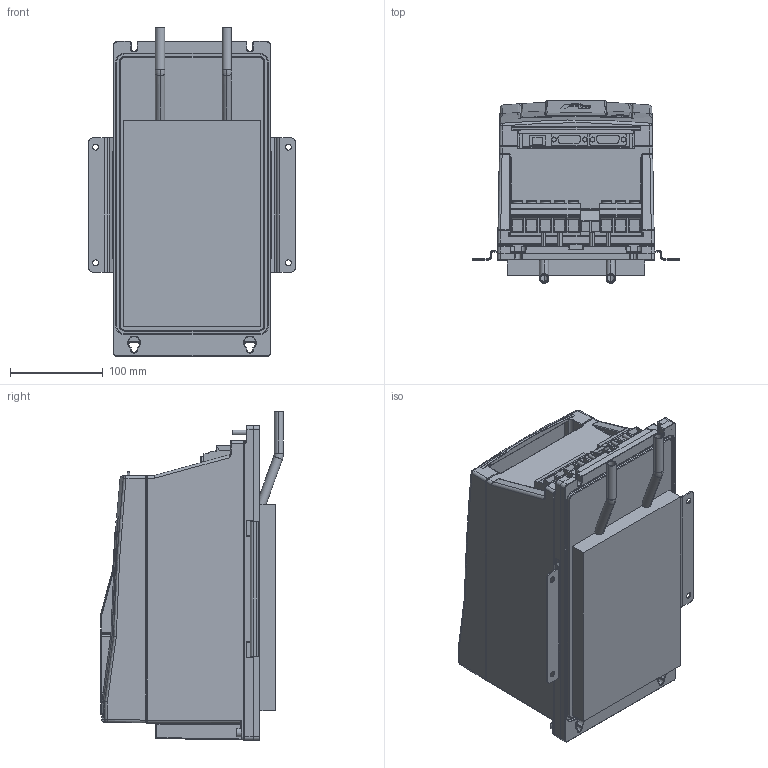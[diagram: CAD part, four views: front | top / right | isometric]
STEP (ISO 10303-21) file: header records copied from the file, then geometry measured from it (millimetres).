
FILE_DESCRIPTION (( 'STEP AP214' ), '1' );
FILE_NAME ('F6-3 TW5-K000.STEP', '2022-05-25T09:54:11', ( '' ), ( '' ), 'SwSTEP 2.0', 'SolidWorks 2019', '' );
FILE_SCHEMA (( 'AUTOMOTIVE_DESIGN' ));
Length unit declared in the file: millimetre
Products named in the file (9): 10035735_000_Kundenmodell; 10068340_000_Leistungsteil TW5 (Kundenmodell); Kundenmodell^10059764_000; F6-3 TW5-K000; Kundenmodell^10068340_000; Kundenmodell^10040482_000; Kundenmodell^10035735_000; 10059764_000_Blindabdeckung (Kundenmodell); 10040482_000_Kundenmodell
Assembly tree (8 placements, depth 4):
  F6-3 TW5-K000
    10068340_000_Leistungsteil TW5 (Kundenmodell)
      Kundenmodell^10068340_000
    10040482_000_Kundenmodell
      Kundenmodell^10040482_000
    10035735_000_Kundenmodell
      10059764_000_Blindabdeckung (Kundenmodell)
        Kundenmodell^10059764_000
      Kundenmodell^10035735_000
Bounding box: 223 x 197.46 x 355 mm (x, y, z)
Volume: 7989780.4 mm3; surface area: 587507.1 mm2
Topology: 11 solids, 22 shells, 2261 faces, 5746 edges, 3550 vertices
Faces by surface type: plane 947, cylinder 719, bspline 331, cone 111, torus 103, sphere 50
Entity records: 75413 total; most frequent: CARTESIAN_POINT 23962, ORIENTED_EDGE 11364, DIRECTION 9823, EDGE_CURVE 5682, VERTEX_POINT 3549, AXIS2_PLACEMENT_3D 3420, LINE 2983, VECTOR 2983
